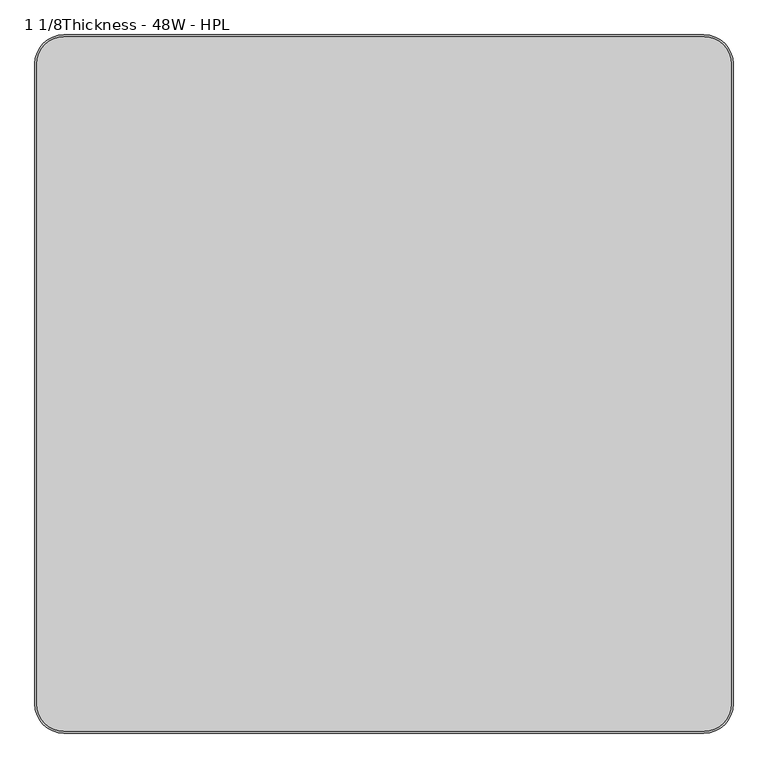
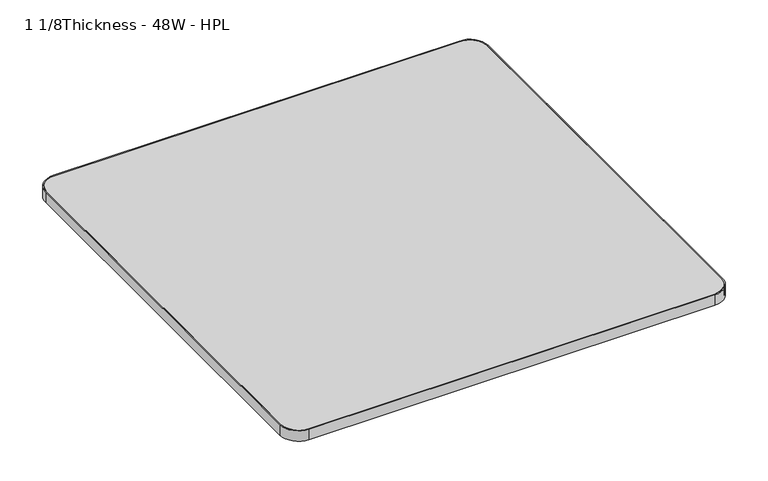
"""IFC4 building model written with IfcOpenShell, lengths in millimetres: furniture geometry, Steelcase - Groupwork - Table - Top - Square : 1 1/8Thickness - 48W - HPL."""

from ifc_helpers import new_model, si_unit, point, frame, frame_2d, origin, place, context, project, spatial, polyline, circle_curve, trimmed, segment, composite_curve, outline, extrude, source, transform, mapped, element, save


def furniture_1_1_8thickness_48w_hpl_af9b5860(model_context):
    return source(origin(), model_context, "Body", "SweptSolid", [
        extrude(outline(composite_curve([segment(polyline([(-587.248, 606.6), (530.448, 606.6)]), True, "CONTINUOUS"), segment(trimmed(circle_curve(frame_2d((530.448, 558.848)), 47.752), [point((530.448, 606.6))], [point((578.2, 558.848))], False, "CARTESIAN"), True, "CONTINUOUS"), segment(polyline([(578.2, 558.848), (578.2, -558.848)]), True, "CONTINUOUS"), segment(trimmed(circle_curve(frame_2d((530.448, -558.848)), 47.752), [point((578.2, -558.848))], [point((530.448, -606.6))], False, "CARTESIAN"), True, "CONTINUOUS"), segment(polyline([(530.448, -606.6), (-587.248, -606.6)]), True, "CONTINUOUS"), segment(trimmed(circle_curve(frame_2d((-587.248, -558.848)), 47.752), [point((-587.248, -606.6))], [point((-635.0, -558.848))], False, "CARTESIAN"), True, "CONTINUOUS"), segment(polyline([(-635.0, -558.848), (-635.0, 558.848)]), True, "CONTINUOUS"), segment(trimmed(circle_curve(frame_2d((-587.248, 558.848)), 47.752), [point((-635.0, 558.848))], [point((-587.248, 606.6))], False, "CARTESIAN"), True, "CONTINUOUS")], self_intersect=False)), frame((0.0, 0.0, 695.579), z_axis=(0.0, 0.0, 1.0), x_axis=(1.0, 0.0, 0.0)), (0.0, 0.0, 1.0), 29.972),
        extrude(outline(composite_curve([segment(trimmed(circle_curve(frame_2d((530.4, 558.8)), 50.8), [point((530.4, 609.6))], [point((581.2, 558.8))], False, "CARTESIAN"), True, "CONTINUOUS"), segment(polyline([(581.2, 558.8), (581.2, -558.8)]), True, "CONTINUOUS"), segment(trimmed(circle_curve(frame_2d((530.4, -558.8)), 50.8), [point((581.2, -558.8))], [point((530.4, -609.6))], False, "CARTESIAN"), True, "CONTINUOUS"), segment(polyline([(530.4, -609.6), (-587.2, -609.6)]), True, "CONTINUOUS"), segment(trimmed(circle_curve(frame_2d((-587.2, -558.8)), 50.8), [point((-587.2, -609.6))], [point((-638.0, -558.8))], False, "CARTESIAN"), True, "CONTINUOUS"), segment(polyline([(-638.0, -558.8), (-638.0, 558.8)]), True, "CONTINUOUS"), segment(trimmed(circle_curve(frame_2d((-587.2, 558.8)), 50.8), [point((-638.0, 558.8))], [point((-587.2, 609.6))], False, "CARTESIAN"), True, "CONTINUOUS"), segment(polyline([(-587.2, 609.6), (530.4, 609.6)]), True, "CONTINUOUS")], self_intersect=False), holes=[composite_curve([segment(polyline([(530.448, 606.6), (-587.248, 606.6)]), True, "CONTINUOUS"), segment(trimmed(circle_curve(frame_2d((-587.248, 558.848)), 47.752), [point((-587.248, 606.6))], [point((-635.0, 558.848))], True, "CARTESIAN"), True, "CONTINUOUS"), segment(polyline([(-635.0, 558.848), (-635.0, -558.848)]), True, "CONTINUOUS"), segment(trimmed(circle_curve(frame_2d((-587.248, -558.848)), 47.752), [point((-635.0, -558.848))], [point((-587.248, -606.6))], True, "CARTESIAN"), True, "CONTINUOUS"), segment(polyline([(-587.248, -606.6), (530.448, -606.6)]), True, "CONTINUOUS"), segment(trimmed(circle_curve(frame_2d((530.448, -558.848)), 47.752), [point((530.448, -606.6))], [point((578.2, -558.848))], True, "CARTESIAN"), True, "CONTINUOUS"), segment(polyline([(578.2, -558.848), (578.2, 558.848)]), True, "CONTINUOUS"), segment(trimmed(circle_curve(frame_2d((530.448, 558.848)), 47.752), [point((578.2, 558.848))], [point((530.448, 606.6))], True, "CARTESIAN"), True, "CONTINUOUS")], self_intersect=False)]), frame((0.0, 0.0, 695.579), z_axis=(0.0, 0.0, 1.0), x_axis=(1.0, 0.0, 0.0)), (0.0, 0.0, 1.0), 29.972),
    ])


if __name__ == "__main__":
    model = new_model("IFC4")
    model_context = context("Model", 3, world=origin())
    ifc_project = project(units=[si_unit("LENGTHUNIT", "METRE", prefix="MILLI")], contexts=[model_context])
    site = spatial("IfcSite", under=ifc_project)
    building = spatial("IfcBuilding", under=site)
    placement = place(None, origin())
    furniture_1_1_8thickness_48w_hpl_shape = furniture_1_1_8thickness_48w_hpl_af9b5860(model_context)
    element("IfcFurniture", 1, ObjectType="Steelcase - Groupwork - Table - Top - Square : 1 1/8Thickness - 48W - HPL", at=placement, inside=building, context=model_context, shape_type="MappedRepresentation", body=[
        mapped(furniture_1_1_8thickness_48w_hpl_shape, transform((0.0, 0.0, 0.0), x_axis=(1.0, 0.0, 0.0), y_axis=(0.0, 1.0, 0.0), z_axis=(0.0, 0.0, 1.0))),
    ])
    save(model, "model.ifc")
